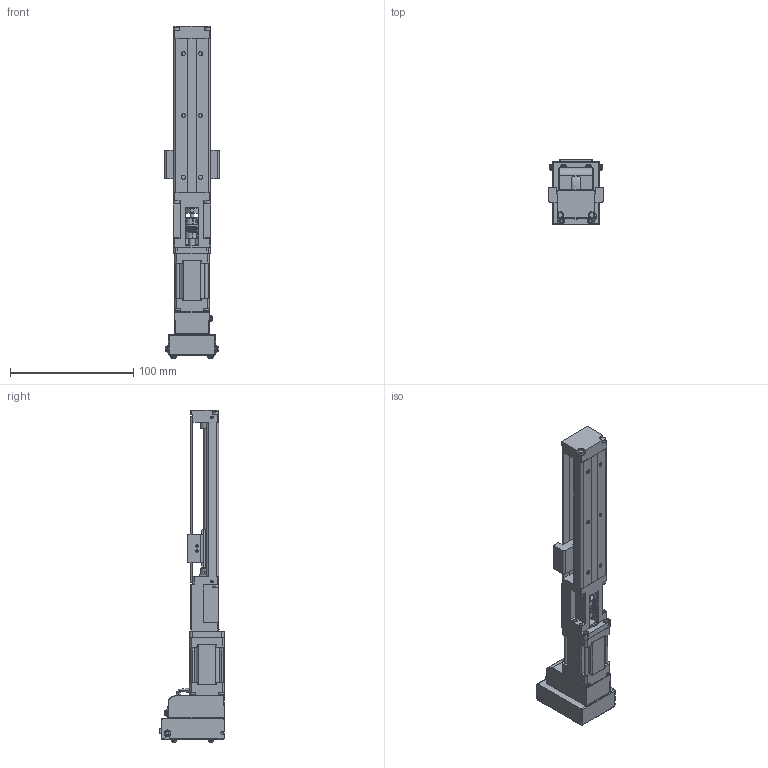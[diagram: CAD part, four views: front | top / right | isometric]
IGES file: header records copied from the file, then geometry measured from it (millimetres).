
Start section: SolidWorks IGES file using analytic representation for surfaces
Global section: file name: \\MYODRIVE\Public\CAD Files\Integrated-Actuators\PA-Series\PA15\PA15-A-01-075-X-10A0-11L30-X.IGS; native system: SolidWorks 2015; preprocessor: SolidWorks 2015; author: RENDER; date: 150106.092051; units: millimetre
Bounding box: 44 x 52.35 x 268.9 mm (x, y, z)
Surface area: 79899.3 mm2 (no closed solid volume)
Topology: 0 solids, 0 shells, 1835 faces, 21369 edges, 21323 vertices
Faces by surface type: bspline 1082, revolution 753
